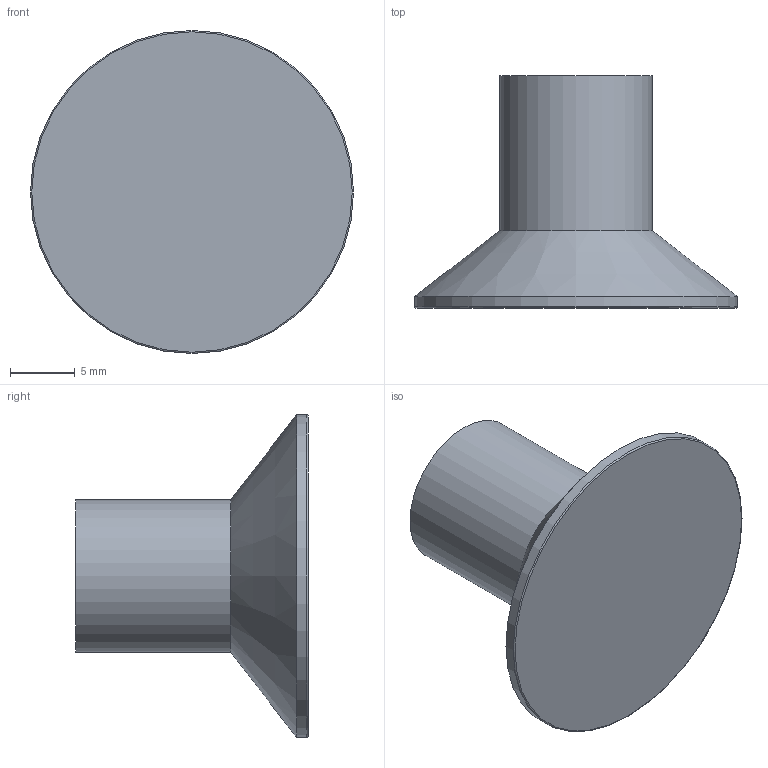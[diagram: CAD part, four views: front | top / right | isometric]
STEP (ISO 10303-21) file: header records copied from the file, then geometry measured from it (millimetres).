
FILE_DESCRIPTION(/* description */ (''),/* implementation_level */ '2;1');
FILE_NAME(/* name */ 'W:\Technik\Konstruktion\CAD-Daten\Vakuumsauger\102_\102.025.113\102.025.113_Kd neu.stp',/* time_stamp */ '2017-07-31T14:31:24+02:00',/* author */ ('DFloßmann'),/* organization */ (''),/* preprocessor_version */ 'ST-DEVELOPER v16.5',/* originating_system */ 'Autodesk Inventor 2017',/* authorisation */ '');
FILE_SCHEMA (('AUTOMOTIVE_DESIGN { 1 0 10303 214 3 1 1 }'));
Length unit declared in the file: millimetre
Products named in the file (1): 102.025.113_Kd neu
Bounding box: 25 x 18 x 25 mm (x, y, z)
Volume: 2800.8 mm3; surface area: 1851.9 mm2
Topology: 1 solids, 1 shells, 10 faces, 15 edges, 9 vertices
Faces by surface type: plane 4, cylinder 4, torus 1, cone 1
Full cylindrical faces by diameter (mm): 6.2 x1, 7.2 x1, 11.8 x1, 25 x1
Entity records: 224 total; most frequent: DIRECTION 40, CARTESIAN_POINT 29, AXIS2_PLACEMENT_3D 20, EDGE_LOOP 18, ORIENTED_EDGE 18, FACE_OUTER_BOUND 10, ADVANCED_FACE 10, CIRCLE 9
